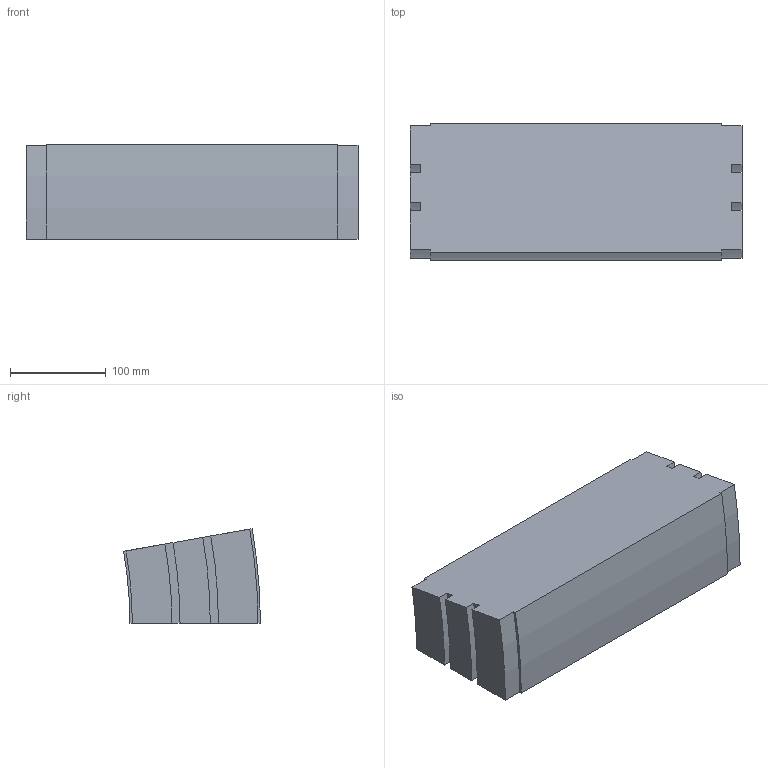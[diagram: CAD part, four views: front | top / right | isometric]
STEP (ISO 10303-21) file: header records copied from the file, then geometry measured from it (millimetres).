
FILE_DESCRIPTION (( 'STEP AP214' ), '1' );
FILE_NAME ('02.150V10.350.N FS-350-MTC-150 Bocht verticaal 10°.STEP', '2013-03-21T10:48:50', ( 'Gebruiker' ), ( '' ), 'SwSTEP 2.0', 'SolidWorks 2012', '' );
FILE_SCHEMA (( 'AUTOMOTIVE_DESIGN' ));
Length unit declared in the file: millimetre
Products named in the file (1): 02.150V10.350.N FS-350-MTC-150 Bocht verticaal 10°
Bounding box: 346 x 142.56 x 98.63 mm (x, y, z)
Volume: 4055447 mm3; surface area: 184748.3 mm2
Topology: 1 solids, 1 shells, 30 faces, 84 edges, 56 vertices
Faces by surface type: plane 16, cylinder 14
Entity records: 1010 total; most frequent: DIRECTION 174, CARTESIAN_POINT 171, ORIENTED_EDGE 168, EDGE_CURVE 84, AXIS2_PLACEMENT_3D 59, VECTOR 56, LINE 56, VERTEX_POINT 56
